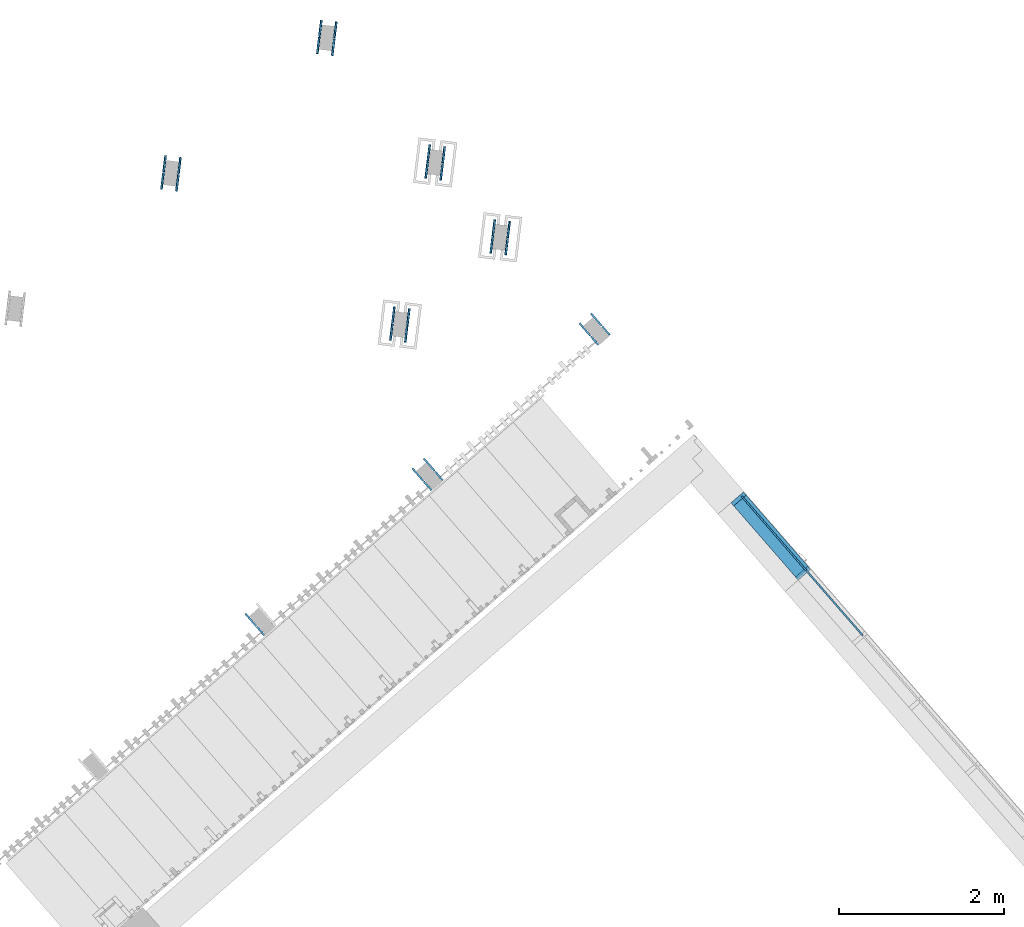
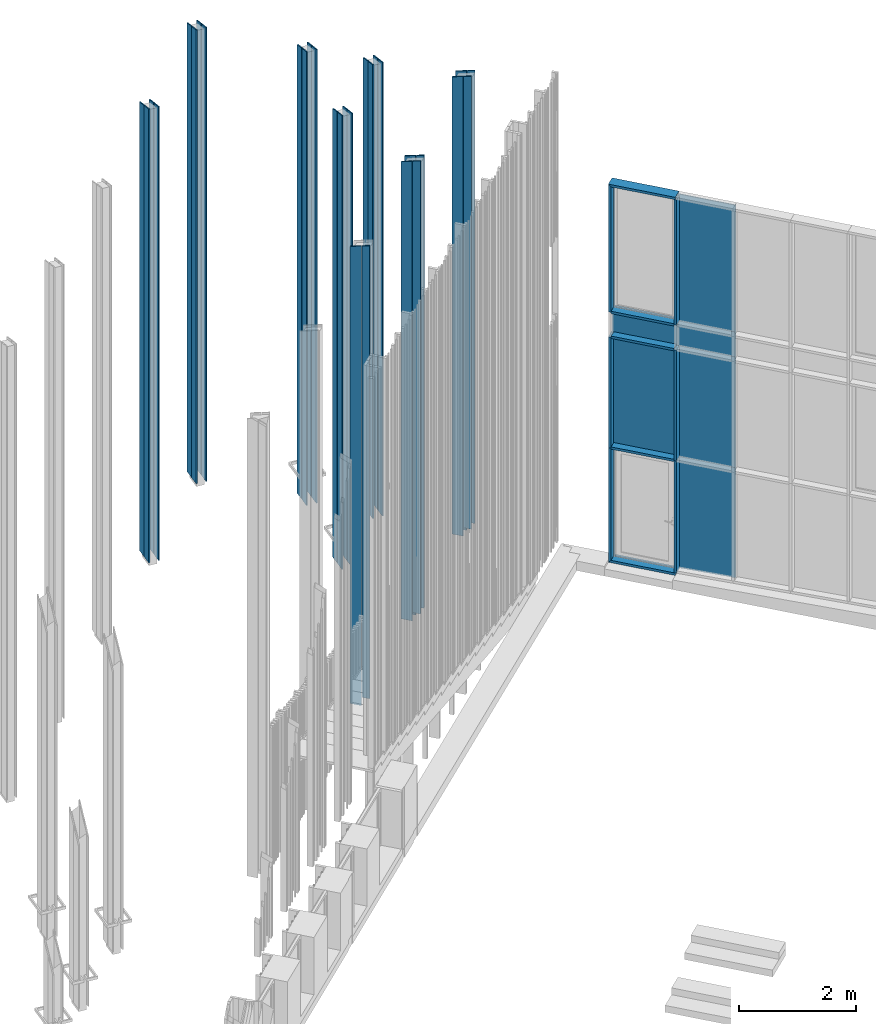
# One storey, part 57 of 390: 47 discrete accessories, 1 element without a shape of its own.
"""IFC2X3 building model written with IfcOpenShell, lengths in millimetres."""

from ifc_helpers import new_model, entity, si_unit, converted_unit, derived_unit, money_unit, direction, frame, origin_with_axes, place, context, subcontext, project, spatial, polyline, outline, extrude, clip, halfspace, faceted_brep, source, transform, mapped, material, material_list, type_object, element, aggregate, save


model = new_model("IFC2X3")

# Units and contexts
model_context = context("Model", 3, precision=1e-05, world=origin_with_axes(), true_north=direction((0.0, 1.0)))
body_context = subcontext(model_context, "Body", "Model", "MODEL_VIEW")
ifc_project = project(units=[si_unit("LENGTHUNIT", "METRE", prefix="MILLI"), si_unit("AREAUNIT", "SQUARE_METRE"), si_unit("VOLUMEUNIT", "CUBIC_METRE"), converted_unit("PLANEANGLEUNIT", "DEGREE", entity("IfcPlaneAngleMeasure", 0.0174532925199), si_unit("PLANEANGLEUNIT", "RADIAN"), dimensions=[0, 0, 0, 0, 0, 0, 0]), si_unit("SOLIDANGLEUNIT", "STERADIAN"), money_unit("EUR"), converted_unit("TIMEUNIT", "Year", entity("IfcTimeMeasure", 31556926.0), si_unit("TIMEUNIT", "SECOND"), dimensions=[0, 0, 1, 0, 0, 0, 0]), si_unit("MASSUNIT", "GRAM", prefix="KILO"), si_unit("THERMODYNAMICTEMPERATUREUNIT", "DEGREE_CELSIUS"), si_unit("LUMINOUSINTENSITYUNIT", "LUMEN"), si_unit("ENERGYUNIT", "JOULE", prefix="MEGA"), derived_unit("THERMALCONDUCTANCEUNIT", [(si_unit("POWERUNIT", "WATT"), 1), (si_unit("LENGTHUNIT", "METRE"), -1), (si_unit("THERMODYNAMICTEMPERATUREUNIT", "KELVIN"), -1)]), derived_unit("SPECIFICHEATCAPACITYUNIT", [(si_unit("ENERGYUNIT", "JOULE"), 1), (si_unit("MASSUNIT", "GRAM", prefix="KILO"), -1), (si_unit("THERMODYNAMICTEMPERATUREUNIT", "KELVIN"), -1)]), derived_unit("MASSDENSITYUNIT", [(si_unit("MASSUNIT", "GRAM", prefix="KILO"), 1), (si_unit("VOLUMEUNIT", "CUBIC_METRE"), -1)])], contexts=[model_context])

# Site, building, storey
site_placement = place(None, origin_with_axes())
site = spatial("IfcSite", under=ifc_project, at=site_placement, Name="Site", CompositionType="ELEMENT")
building_placement = place(site_placement, origin_with_axes())
building = spatial("IfcBuilding", under=site, at=building_placement, Name="Building", CompositionType="ELEMENT")
storey_placement = place(building_placement, origin_with_axes())
storey = spatial("IfcBuildingStorey", under=building, at=storey_placement, Name="1 korrus", CompositionType="ELEMENT", Elevation=0.0)

# Discrete accessories
ifc_material_1 = material(Name="GENEERILINE - VÄLINE VOODER")
discrete_accessory_type_1 = type_object("IfcDiscreteAccessoryType", Name="GENEERILINE - VÄLINE VOODER")
shared_shape_1 = source(origin_with_axes(), body_context, "Body", "Brep", [
    faceted_brep([(162190.360855, 119453.798876, 100.0), (162190.360855, 119453.798876, 9600.0), (162168.524839, 119456.480002, 9600.0), (162168.524839, 119456.480002, 100.0), (162214.734723, 119652.308107, 100.0), (162214.734723, 119652.308107, 9546.41016151), (162192.898708, 119654.989232, 9546.41016151), (162192.898708, 119654.989232, 100.0)], [[[0, 1, 2, 3]], [[1, 0, 4, 5]], [[2, 1, 5, 6]], [[3, 2, 6, 7]], [[0, 3, 7, 4]], [[7, 6, 5, 4]]]),
])
for number, where, z_axis, x_axis in (
    (1, (0.0, 0.0, 0.0), (0.0, 0.0, 1.0), (1.0, 0.0, 0.0)),
    (2, (2099.38889286, -2415.07065664, 0.0), (0.0, 0.0, 1.0), (1.0, 0.0, 0.0)),
    (3, (1312.11805804, -1509.4191604, 0.0), (0.0, 0.0, 1.0), (1.0, 0.0, 0.0)),
    (4, (884.306468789, -3471.32569341, 0.0), (0.0, 0.0, 1.0), (1.0, 0.0, 0.0)),
    (5, (-1886.77395039, -1640.14757267, 0.0), (0.0, 0.0, 1.0), (1.0, 0.0, 0.0)),
):
    element("IfcDiscreteAccessory", number, at=place(storey_placement, frame(where, z_axis=z_axis, x_axis=x_axis)), inside=storey, type_object=discrete_accessory_type_1, material=ifc_material_1, Name="Päikesevarjestuspost", context=body_context, shape_type="MappedRepresentation", body=[
        mapped(shared_shape_1, transform((0.0, 0.0, 0.0))),
    ])
shared_shape_2 = source(origin_with_axes(), body_context, "Body", "Brep", [
    faceted_brep([(162194.117401, 119664.914694, 100.0), (162215.953417, 119662.233568, 100.0), (162215.953417, 119662.233568, 9543.73066959), (162194.117401, 119664.914694, 9543.73066959), (162218.49127, 119863.423924, 100.0), (162240.327285, 119860.742798, 100.0), (162240.327285, 119860.742798, 9490.1408311), (162218.49127, 119863.423924, 9490.1408311)], [[[0, 1, 2, 3]], [[1, 0, 4, 5]], [[2, 1, 5, 6]], [[3, 2, 6, 7]], [[0, 3, 7, 4]], [[4, 7, 6, 5]]]),
])
for number, where, z_axis, x_axis in (
    (6, (0.0, 0.0, 0.0), (0.0, 0.0, 1.0), (1.0, 0.0, 0.0)),
    (7, (2099.38889286, -2415.07065664, 0.0), (0.0, 0.0, 1.0), (1.0, 0.0, 0.0)),
    (8, (1312.11805804, -1509.4191604, 0.0), (0.0, 0.0, 1.0), (1.0, 0.0, 0.0)),
    (9, (884.306468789, -3471.32569341, 0.0), (0.0, 0.0, 1.0), (1.0, 0.0, 0.0)),
    (10, (-1886.77395039, -1640.14757267, 0.0), (0.0, 0.0, 1.0), (1.0, 0.0, 0.0)),
):
    element("IfcDiscreteAccessory", number, at=place(storey_placement, frame(where, z_axis=z_axis, x_axis=x_axis)), inside=storey, type_object=discrete_accessory_type_1, material=ifc_material_1, Name="Päikesevarjestuspost", context=body_context, shape_type="MappedRepresentation", body=[
        mapped(shared_shape_2, transform((0.0, 0.0, 0.0))),
    ])
shared_shape_3 = source(origin_with_axes(), body_context, "Body", "Brep", [
    faceted_brep([(-162194.117401, 119664.914694, 100.0), (-162194.117401, 119664.914694, 9543.73066959), (-162215.953417, 119662.233568, 9543.73066959), (-162215.953417, 119662.233568, 100.0), (-162218.49127, 119863.423924, 100.0), (-162218.49127, 119863.423924, 9490.1408311), (-162240.327285, 119860.742798, 9490.1408311), (-162240.327285, 119860.742798, 100.0)], [[[0, 1, 2, 3]], [[0, 4, 5, 1]], [[1, 5, 6, 2]], [[2, 6, 7, 3]], [[3, 7, 4, 0]], [[4, 7, 6, 5]]]),
])
for number, where, z_axis, x_axis in (
    (11, (292922.681677, -38123.6809369, 0.0), (0.0, 0.0, 1.0), (0.970295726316, -0.241921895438, 0.0)),
    (12, (290823.292785, -35708.6102802, 0.0), (0.0, 0.0, 1.0), (0.970295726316, -0.241921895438, 0.0)),
    (13, (292135.410843, -37218.0294406, 0.0), (0.0, 0.0, 1.0), (0.970295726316, -0.241921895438, 0.0)),
    (14, (291707.599253, -39179.9359737, 0.0), (0.0, 0.0, 1.0), (0.970295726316, -0.241921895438, 0.0)),
    (15, (288936.518834, -37348.7578529, 0.0), (0.0, 0.0, 1.0), (0.970295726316, -0.241921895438, 0.0)),
):
    element("IfcDiscreteAccessory", number, at=place(storey_placement, frame(where, z_axis=z_axis, x_axis=x_axis)), inside=storey, type_object=discrete_accessory_type_1, material=ifc_material_1, Name="Päikesevarjestuspost", context=body_context, shape_type="MappedRepresentation", body=[
        mapped(shared_shape_3, transform((0.0, 0.0, 0.0))),
    ])
shared_shape_4 = source(origin_with_axes(), body_context, "Body", "Brep", [
    faceted_brep([(-162190.360855, 119453.798876, 100.0), (-162168.524839, 119456.480002, 100.0), (-162168.524839, 119456.480002, 9600.0), (-162190.360855, 119453.798876, 9600.0), (-162214.734723, 119652.308107, 100.0), (-162192.898708, 119654.989232, 100.0), (-162192.898708, 119654.989232, 9546.41016151), (-162214.734723, 119652.308107, 9546.41016151)], [[[0, 1, 2, 3]], [[0, 4, 5, 1]], [[1, 5, 6, 2]], [[2, 6, 7, 3]], [[3, 7, 4, 0]], [[5, 4, 7, 6]]]),
])
for number, where, z_axis, x_axis in (
    (16, (292922.681677, -38123.6809369, 0.0), (0.0, 0.0, 1.0), (0.970295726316, -0.241921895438, 0.0)),
    (17, (290823.292785, -35708.6102802, 0.0), (0.0, 0.0, 1.0), (0.970295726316, -0.241921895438, 0.0)),
    (18, (292135.410843, -37218.0294406, 0.0), (0.0, 0.0, 1.0), (0.970295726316, -0.241921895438, 0.0)),
    (19, (291707.599253, -39179.9359737, 0.0), (0.0, 0.0, 1.0), (0.970295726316, -0.241921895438, 0.0)),
    (20, (288936.518834, -37348.7578529, 0.0), (0.0, 0.0, 1.0), (0.970295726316, -0.241921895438, 0.0)),
):
    element("IfcDiscreteAccessory", number, at=place(storey_placement, frame(where, z_axis=z_axis, x_axis=x_axis)), inside=storey, type_object=discrete_accessory_type_1, material=ifc_material_1, Name="Päikesevarjestuspost", context=body_context, shape_type="MappedRepresentation", body=[
        mapped(shared_shape_4, transform((0.0, 0.0, 0.0))),
    ])
shared_shape_5 = source(origin_with_axes(), body_context, "Body", "Brep", [
    faceted_brep([(-162214.734723, 119652.308107, 100.0), (-162197.673015, 119513.351645, 100.0), (-162197.673015, 119513.351645, 9583.92304846), (-162214.734723, 119652.308107, 9546.41016151), (-162192.898708, 119654.989232, 100.0), (-162175.837, 119516.032771, 100.0), (-162175.837, 119516.032771, 9583.92304846), (-162192.898708, 119654.989232, 9546.41016151)], [[[0, 1, 2, 3]], [[1, 0, 4, 5]], [[6, 2, 1, 5]], [[3, 2, 6, 7]], [[0, 3, 7, 4]], [[5, 4, 7, 6]]]),
])
for number, where, z_axis, x_axis in (
    (21, (367011.81722, 107658.857621, 0.0), (0.0, 0.0, 1.0), (0.829037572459, 0.559192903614, 0.0)),
    (22, (364989.195546, 105900.619424, 0.0), (0.0, 0.0, 1.0), (0.829037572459, 0.559192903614, 0.0)),
):
    element("IfcDiscreteAccessory", number, at=place(storey_placement, frame(where, z_axis=z_axis, x_axis=x_axis)), inside=storey, type_object=discrete_accessory_type_1, material=ifc_material_1, Name="Päikesevarjestuspost", context=body_context, shape_type="MappedRepresentation", body=[
        mapped(shared_shape_5, transform((0.0, 0.0, 0.0))),
    ])
shared_shape_6 = source(origin_with_axes(), body_context, "Body", "Brep", [
    faceted_brep([(162175.837, 119516.032771, 9583.92304846), (162175.837, 119516.032771, 100.0), (162197.673015, 119513.351645, 100.0), (162197.673015, 119513.351645, 9583.92304846), (162192.898708, 119654.989232, 100.0), (162192.898708, 119654.989232, 9546.41016151), (162214.734723, 119652.308107, 100.0), (162214.734723, 119652.308107, 9546.41016151)], [[[0, 1, 2, 3]], [[4, 1, 0, 5]], [[1, 4, 6, 2]], [[2, 6, 7, 3]], [[5, 0, 3, 7]], [[4, 5, 7, 6]]]),
])
for number, where, z_axis, x_axis in (
    (23, (145876.382023, -84571.2434919, 0.0), (0.0, 0.0, 1.0), (0.669130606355, 0.743144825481, 0.0)),
    (24, (143853.760348, -86329.4816898, 0.0), (0.0, 0.0, 1.0), (0.669130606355, 0.743144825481, 0.0)),
    (25, (141831.138673, -88087.7198877, 0.0), (0.0, 0.0, 1.0), (0.669130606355, 0.743144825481, 0.0)),
):
    element("IfcDiscreteAccessory", number, at=place(storey_placement, frame(where, z_axis=z_axis, x_axis=x_axis)), inside=storey, type_object=discrete_accessory_type_1, material=ifc_material_1, Name="Päikesevarjestuspost", context=body_context, shape_type="MappedRepresentation", body=[
        mapped(shared_shape_6, transform((0.0, 0.0, 0.0))),
    ])
shared_shape_7 = source(origin_with_axes(), body_context, "Body", "Brep", [
    faceted_brep([(162194.117401, 119664.914694, -78.0534808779), (162215.953417, 119662.233568, -78.0534808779), (162215.953417, 119662.233568, 9543.73066959), (162194.117401, 119664.914694, 9543.73066959), (162218.49127, 119863.423924, -78.0534808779), (162240.327285, 119860.742798, -78.0534808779), (162240.327285, 119860.742798, 9490.1408311), (162218.49127, 119863.423924, 9490.1408311)], [[[0, 1, 2, 3]], [[1, 0, 4, 5]], [[2, 1, 5, 6]], [[3, 2, 6, 7]], [[0, 3, 7, 4]], [[4, 7, 6, 5]]]),
])
for number, where, z_axis, x_axis in (
    (26, (145876.382023, -84571.2434919, 0.0), (0.0, 0.0, 1.0), (0.669130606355, 0.743144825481, 0.0)),
    (27, (143853.760348, -86329.4816898, 0.0), (0.0, 0.0, 1.0), (0.669130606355, 0.743144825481, 0.0)),
    (28, (141831.138673, -88087.7198877, 0.0), (0.0, 0.0, 1.0), (0.669130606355, 0.743144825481, 0.0)),
):
    element("IfcDiscreteAccessory", number, at=place(storey_placement, frame(where, z_axis=z_axis, x_axis=x_axis)), inside=storey, type_object=discrete_accessory_type_1, material=ifc_material_1, Name="Päikesevarjestuspost", context=body_context, shape_type="MappedRepresentation", body=[
        mapped(shared_shape_7, transform((0.0, 0.0, 0.0))),
    ])
shared_shape_8 = source(origin_with_axes(), body_context, "Body", "Brep", [
    faceted_brep([(-162240.327285, 119860.742798, 9490.1408311), (-162240.327285, 119860.742798, -78.0534808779), (-162215.953417, 119662.233568, -78.0534808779), (-162215.953417, 119662.233568, 9543.73066959), (-162218.49127, 119863.423924, -78.0534808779), (-162218.49127, 119863.423924, 9490.1408311), (-162194.117401, 119664.914694, -78.0534808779), (-162194.117401, 119664.914694, 9543.73066959)], [[[0, 1, 2, 3]], [[4, 1, 0, 5]], [[1, 4, 6, 2]], [[2, 6, 7, 3]], [[5, 0, 3, 7]], [[6, 4, 5, 7]]]),
])
for number, where, z_axis, x_axis in (
    (29, (367011.81722, 107658.857621, 0.0), (0.0, 0.0, 1.0), (0.829037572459, 0.559192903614, 0.0)),
    (30, (364989.195546, 105900.619424, 0.0), (0.0, 0.0, 1.0), (0.829037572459, 0.559192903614, 0.0)),
):
    element("IfcDiscreteAccessory", number, at=place(storey_placement, frame(where, z_axis=z_axis, x_axis=x_axis)), inside=storey, type_object=discrete_accessory_type_1, material=ifc_material_1, Name="Päikesevarjestuspost", context=body_context, shape_type="MappedRepresentation", body=[
        mapped(shared_shape_8, transform((0.0, 0.0, 0.0))),
    ])

# Curtain wall, discrete accessories
curtain_wall_type = type_object("IfcCurtainWallType", Name="KLF-17", PredefinedType="NOTDEFINED")
curtain_wall_placement = place(storey_placement, frame((175630.823927, 104534.758561, -0.000216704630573), z_axis=(0.0, 0.0, 1.0), x_axis=(1.0, 0.0, 0.0)))
curtain_wall = element("IfcCurtainWall", 31, at=curtain_wall_placement, inside=storey, type_object=curtain_wall_type, Name="Klaasfassaad")
ifc_material_2 = material(Name="Klaas")
discrete_accessory_type_2 = type_object("IfcDiscreteAccessoryType", Name="1045 x 2655 x 20")
discrete_accessory_1_placement = place(curtain_wall_placement, frame((-7188.76681015, 8269.7302253, 6577.50341211), z_axis=(0.0, 0.0, 1.0), x_axis=(-0.65605902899, 0.754709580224, 0.0)))
discrete_accessory_1 = element("IfcDiscreteAccessory", 32, at=discrete_accessory_1_placement, type_object=discrete_accessory_type_2, material=ifc_material_2, Name="KLF-17 klaaspakett", context=body_context, shape_type="SweptSolid", body=[
    extrude(outline(polyline([(-522.499998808, -1317.50318898), (522.499988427, -1317.50318898), (522.499988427, 1337.50319541), (-522.499998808, 1337.50319541), (-522.499998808, -1317.50318898)])), frame((0.0, -9.99999999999, 0.0), z_axis=(0.0, 1.0, 0.0), x_axis=(1.0, 0.0, 0.0)), (0.0, 0.0, 1.0), 20.0),
])
discrete_accessory_type_3 = type_object("IfcDiscreteAccessoryType", Name="1045 x 2380 x 20")
discrete_accessory_2_placement = place(curtain_wall_placement, frame((-7297.56324736, 8394.88620948, 821.023231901), z_axis=(0.0, 0.0, 1.0), x_axis=(-0.65605902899, 0.754709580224, 0.0)))
discrete_accessory_2 = element("IfcDiscreteAccessory", 33, at=discrete_accessory_2_placement, type_object=discrete_accessory_type_3, material=ifc_material_2, Name="KLF-17 klaaspakett", context=body_context, shape_type="SweptSolid", body=[
    extrude(outline(polyline([(-688.333297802, -1578.97699635), (356.666694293, -1578.97699635), (356.666694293, 801.023229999), (351.666622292, 801.023229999), (351.666622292, 750.317553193), (-688.333297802, 726.045824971), (-688.333297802, -1578.97699635)])), frame((0.0, -9.99999999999, 0.0), z_axis=(0.0, 1.0, 0.0), x_axis=(1.0, 0.0, 0.0)), (0.0, 0.0, 1.0), 20.0),
])
discrete_accessory_type_4 = type_object("IfcDiscreteAccessoryType", Name="1045 x 2320 x 20")
discrete_accessory_3_placement = place(curtain_wall_placement, frame((-7188.76681015, 8269.7302253, 3560.0002167), z_axis=(0.0, 0.0, 1.0), x_axis=(-0.65605902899, 0.754709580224, 0.0)))
discrete_accessory_3 = element("IfcDiscreteAccessory", 34, at=discrete_accessory_3_placement, type_object=discrete_accessory_type_4, material=ifc_material_2, Name="KLF-17 klaaspakett", context=body_context, shape_type="SweptSolid", body=[
    extrude(outline(polyline([(-522.499991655, -1160.0), (522.500001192, -1160.0), (522.500001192, 1160.0), (-522.499991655, 1160.0), (-522.499991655, -1160.0)])), frame((0.0, -9.99999999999, 0.0), z_axis=(0.0, 1.0, 0.0), x_axis=(1.0, 0.0, 0.0)), (0.0, 0.0, 1.0), 20.0),
])
discrete_accessory_type_5 = type_object("IfcDiscreteAccessoryType", Name="1195 x 2320 x 20")
discrete_accessory_4_placement = place(curtain_wall_placement, frame((-7930.11351291, 9122.55205095, 3560.0002167), z_axis=(0.0, 0.0, 1.0), x_axis=(-0.65605902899, 0.754709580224, 0.0)))
discrete_accessory_4 = element("IfcDiscreteAccessory", 35, at=discrete_accessory_4_placement, type_object=discrete_accessory_type_5, material=ifc_material_2, Name="KLF-17 klaaspakett", context=body_context, shape_type="SweptSolid", body=[
    extrude(outline(polyline([(-607.499986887, -1160.0), (587.500004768, -1160.0), (587.500004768, 1160.0), (-607.499986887, 1160.0), (-607.499986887, -1160.0)])), frame((0.0, -10.0, 0.0), z_axis=(0.0, 1.0, 0.0), x_axis=(1.0, 0.0, 0.0)), (0.0, 0.0, 1.0), 20.0),
])
discrete_accessory_type_6 = type_object("IfcDiscreteAccessoryType", Name="1045 x 520 x 20")
discrete_accessory_5_placement = place(curtain_wall_placement, frame((-7188.76681015, 8269.7302253, 4980.0002167), z_axis=(0.0, 0.0, 1.0), x_axis=(-0.65605902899, 0.754709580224, 0.0)))
discrete_accessory_5 = element("IfcDiscreteAccessory", 36, at=discrete_accessory_5_placement, type_object=discrete_accessory_type_6, material=ifc_material_2, Name="KLF-17 klaaspakett", context=body_context, shape_type="SweptSolid", body=[
    extrude(outline(polyline([(-522.5, -259.99999553), (522.49999553, -259.99999553), (522.49999553, 260.0), (-522.5, 260.0), (-522.5, -259.99999553)])), frame((0.0, -10.0, 0.0), z_axis=(0.0, 1.0, 0.0), x_axis=(1.0, 0.0, 0.0)), (0.0, 0.0, 1.0), 20.0),
])
discrete_accessory_type_7 = type_object("IfcDiscreteAccessoryType", Name="1195 x 520 x 20")
discrete_accessory_6_placement = place(curtain_wall_placement, frame((-7930.11351291, 9122.55205095, 4980.0002167), z_axis=(0.0, 0.0, 1.0), x_axis=(-0.65605902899, 0.754709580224, 0.0)))
discrete_accessory_6 = element("IfcDiscreteAccessory", 37, at=discrete_accessory_6_placement, type_object=discrete_accessory_type_7, material=ifc_material_2, Name="KLF-17 klaaspakett", context=body_context, shape_type="SweptSolid", body=[
    extrude(outline(polyline([(-607.500001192, -260.000005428), (587.499992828, -260.000005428), (587.499992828, 260.0), (-607.500001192, 260.0), (-607.500001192, -260.000005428)])), frame((0.0, -10.0, 0.0), z_axis=(0.0, 1.0, 0.0), x_axis=(1.0, 0.0, 0.0)), (0.0, 0.0, 1.0), 20.0),
])
discrete_accessory_type_8 = type_object("IfcDiscreteAccessoryType", Name="50 x 200")
discrete_accessory_7_placement = place(curtain_wall_placement, frame((-8328.66937302, 9581.03812094, 5240.0002167), z_axis=(0.0, 0.0, 1.0), x_axis=(-0.65605902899, 0.754709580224, 0.0)))
discrete_accessory_7 = element("IfcDiscreteAccessory", 38, at=discrete_accessory_7_placement, type_object=discrete_accessory_type_8, Name="KLF-17 profiil", context=body_context, shape_type="Clipping", body=[
    clip(extrude(outline(polyline([(8.8543799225, -25.4283297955), (23.948571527, -12.3071492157), (7.54709580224, 6.56059028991), (-7.54709580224, -6.56059028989), (8.8543799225, -25.4283297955)])), frame((0.0, 0.0, 0.0), z_axis=(0.0, 0.0, 1.0), x_axis=(-0.65605902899, -0.754709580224, 0.0)), (0.0, 0.0, 1.0), 2675.00639082), halfspace(frame((-1337.50319541, 4.75176589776e-10, 1337.50319541), z_axis=(0.707106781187, 0.0, -0.707106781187), x_axis=(0.0, 1.0, 0.0)), True)),
    clip(extrude(outline(polyline([(-80.4034855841, -136.14433336), (25.2558556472, -44.2960693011), (-7.54709580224, -6.56059028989), (-113.206437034, -98.4088543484), (-80.4034855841, -136.14433336)])), frame((0.0, 0.0, 0.0), z_axis=(0.0, 0.0, 1.0), x_axis=(-0.65605902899, -0.754709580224, 0.0)), (0.0, 0.0, 1.0), 2675.00639082), halfspace(frame((-1337.50319541, 0.0, 1337.50319541), z_axis=(0.707106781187, 0.0, -0.707106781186), x_axis=(0.0, 1.0, 0.0)), True)),
    clip(extrude(outline(polyline([(37.7354790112, 32.8029514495), (7.54709580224, 6.56059028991), (40.3500472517, -31.1748887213), (70.5384304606, -4.93252756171), (37.7354790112, 32.8029514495)])), frame((0.0, 0.0, 0.0), z_axis=(0.0, 0.0, 1.0), x_axis=(-0.65605902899, -0.754709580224, 0.0)), (0.0, 0.0, 1.0), 2675.00639082), halfspace(frame((-1337.50319541, 0.0, 1337.50319541), z_axis=(0.707106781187, 0.0, -0.707106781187), x_axis=(0.0, 1.0, 0.0)), True)),
])
ifc_material_3 = material(Name="Aluminium MUST")
ifc_material_list = material_list([ifc_material_3, ifc_material_3])
discrete_accessory_8_placement = place(curtain_wall_placement, frame((-7531.5576528, 8664.06598097, 5240.0002167), z_axis=(0.0, 0.0, 1.0), x_axis=(-0.65605902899, 0.754709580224, 0.0)))
discrete_accessory_8 = element("IfcDiscreteAccessory", 39, at=discrete_accessory_8_placement, type_object=discrete_accessory_type_8, material=ifc_material_list, Name="KLF-17 profiil", context=body_context, shape_type="SweptSolid", body=[
    extrude(outline(polyline([(-129.607912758, -79.5411148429), (-96.8049613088, -117.276593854), (8.8543799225, -25.4283297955), (-23.948571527, 12.3071492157), (-129.607912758, -79.5411148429)])), frame((0.0, 0.0, 0.0), z_axis=(0.0, 0.0, 1.0), x_axis=(-0.65605902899, -0.754709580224, 0.0)), (0.0, 0.0, 1.0), 2625.00639082),
    extrude(outline(polyline([(54.136954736, 13.9352119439), (21.3340032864, 51.6706909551), (-8.8543799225, 25.4283297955), (23.948571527, -12.3071492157), (54.136954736, 13.9352119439)])), frame((0.0, 0.0, 0.0), z_axis=(0.0, 0.0, 1.0), x_axis=(-0.65605902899, -0.754709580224, 0.0)), (0.0, 0.0, 1.0), 2625.00639082),
])
discrete_accessory_9_placement = place(curtain_wall_placement, frame((-8328.66937302, 9581.03812094, 7915.00660752), z_axis=(0.65605902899, -0.754709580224, 0.0), x_axis=(0.0, 0.0, 1.0)))
discrete_accessory_9 = element("IfcDiscreteAccessory", 40, at=discrete_accessory_9_placement, type_object=discrete_accessory_type_8, Name="KLF-17 profiil", context=body_context, shape_type="Clipping", body=[
    clip(extrude(outline(polyline([(9.99999999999, 25.0), (-9.99999999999, 25.0), (-9.99999999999, 0.0), (9.99999999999, 0.0), (9.99999999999, 25.0)])), frame((0.0, 0.0, 0.0), z_axis=(0.0, 0.0, 1.0), x_axis=(0.0, 1.0, 0.0)), (0.0, 0.0, 1.0), 1215.0), halfspace(frame((0.0, 0.0, 0.0), z_axis=(0.707106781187, 0.0, 0.707106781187), x_axis=(0.0, -1.0, 0.0)), True)),
    clip(extrude(outline(polyline([(150.0, 50.0), (9.99999999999, 50.0), (9.99999999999, 0.0), (150.0, 0.0), (150.0, 50.0)])), frame((0.0, 0.0, 0.0), z_axis=(0.0, 0.0, 1.0), x_axis=(0.0, 1.0, 0.0)), (0.0, 0.0, 1.0), 1215.0), halfspace(frame((0.0, 0.0, 0.0), z_axis=(0.707106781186, 0.0, 0.707106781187), x_axis=(0.0, -1.0, 0.0)), True)),
    clip(extrude(outline(polyline([(-50.0, 0.0), (-9.99999999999, 0.0), (-9.99999999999, 50.0), (-50.0, 50.0), (-50.0, 0.0)])), frame((0.0, 0.0, 0.0), z_axis=(0.0, 0.0, 1.0), x_axis=(0.0, 1.0, 0.0)), (0.0, 0.0, 1.0), 1215.0), halfspace(frame((0.0, 0.0, 0.0), z_axis=(0.707106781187, 0.0, 0.707106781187), x_axis=(0.0, -1.0, 0.0)), True)),
])
discrete_accessory_10_placement = place(curtain_wall_placement, frame((-8328.66937302, 9581.03812094, 5240.0002167), z_axis=(0.65605902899, -0.754709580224, 0.0), x_axis=(0.0, 0.0, 1.0)))
discrete_accessory_10 = element("IfcDiscreteAccessory", 41, at=discrete_accessory_10_placement, type_object=discrete_accessory_type_8, material=ifc_material_list, Name="KLF-17 profiil", context=body_context, shape_type="SweptSolid", body=[
    extrude(outline(polyline([(150.0, -25.0), (150.0, 25.0), (10.0, 25.0), (10.0, -25.0), (150.0, -25.0)])), frame((0.0, 0.0, 50.0), z_axis=(0.0, 0.0, 1.0), x_axis=(0.0, 1.0, 0.0)), (0.0, 0.0, 1.0), 1140.0),
    extrude(outline(polyline([(-50.0, 25.0), (-50.0, -25.0), (-9.99999999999, -25.0), (-9.99999999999, 25.0), (-50.0, 25.0)])), frame((0.0, 0.0, 50.0), z_axis=(0.0, 0.0, 1.0), x_axis=(0.0, 1.0, 0.0)), (0.0, 0.0, 1.0), 1140.0),
])
discrete_accessory_11_placement = place(curtain_wall_placement, frame((-8328.66937302, 9581.03812094, 0.0), z_axis=(0.0, 0.0, 1.0), x_axis=(-0.65605902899, 0.754709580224, 0.0)))
discrete_accessory_11 = element("IfcDiscreteAccessory", 42, at=discrete_accessory_11_placement, type_object=discrete_accessory_type_8, Name="KLF-17 profiil", context=body_context, shape_type="Clipping", body=[
    clip(extrude(outline(polyline([(8.8543799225, -25.4283297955), (23.948571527, -12.3071492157), (7.54709580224, 6.56059028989), (-7.54709580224, -6.56059028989), (8.8543799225, -25.4283297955)])), frame((0.0, 0.0, 0.0), z_axis=(0.0, 0.0, 1.0), x_axis=(-0.65605902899, -0.754709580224, 0.0)), (0.0, 0.0, 1.0), 2400.0002167), halfspace(frame((0.0, 0.0, 0.0), z_axis=(0.707106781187, 0.0, 0.707106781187), x_axis=(0.0, -1.0, 0.0)), True)),
    clip(extrude(outline(polyline([(-80.4034855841, -136.14433336), (25.2558556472, -44.2960693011), (-7.54709580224, -6.56059028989), (-113.206437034, -98.4088543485), (-80.4034855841, -136.14433336)])), frame((0.0, 0.0, 0.0), z_axis=(0.0, 0.0, 1.0), x_axis=(-0.65605902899, -0.754709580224, 0.0)), (0.0, 0.0, 1.0), 2400.0002167), halfspace(frame((0.0, 0.0, 0.0), z_axis=(0.707106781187, 0.0, 0.707106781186), x_axis=(0.0, -1.0, 0.0)), True)),
    clip(extrude(outline(polyline([(37.7354790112, 32.8029514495), (7.54709580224, 6.56059028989), (40.3500472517, -31.1748887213), (70.5384304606, -4.93252756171), (37.7354790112, 32.8029514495)])), frame((0.0, 0.0, 0.0), z_axis=(0.0, 0.0, 1.0), x_axis=(-0.65605902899, -0.754709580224, 0.0)), (0.0, 0.0, 1.0), 2400.0002167), halfspace(frame((0.0, 0.0, 0.0), z_axis=(0.707106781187, 0.0, 0.707106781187), x_axis=(0.0, -1.0, 0.0)), True)),
])
discrete_accessory_12_placement = place(curtain_wall_placement, frame((-7531.5576528, 8664.06598097, 0.0), z_axis=(0.0, 0.0, 1.0), x_axis=(-0.65605902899, 0.754709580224, 0.0)))
discrete_accessory_12 = element("IfcDiscreteAccessory", 43, at=discrete_accessory_12_placement, type_object=discrete_accessory_type_8, material=ifc_material_list, Name="KLF-17 profiil", context=body_context, shape_type="SweptSolid", body=[
    extrude(outline(polyline([(-129.607912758, -79.5411148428), (-96.8049613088, -117.276593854), (8.85437992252, -25.4283297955), (-23.948571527, 12.3071492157), (-129.607912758, -79.5411148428)])), frame((0.0, 0.0, 50.0), z_axis=(0.0, 0.0, 1.0), x_axis=(-0.65605902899, -0.754709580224, 0.0)), (0.0, 0.0, 1.0), 2350.0002167),
    extrude(outline(polyline([(54.1369547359, 13.9352119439), (21.3340032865, 51.6706909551), (-8.8543799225, 25.4283297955), (23.948571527, -12.3071492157), (54.1369547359, 13.9352119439)])), frame((0.0, 0.0, 50.0), z_axis=(0.0, 0.0, 1.0), x_axis=(-0.65605902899, -0.754709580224, 0.0)), (0.0, 0.0, 1.0), 2350.0002167),
])
discrete_accessory_13_placement = place(curtain_wall_placement, frame((-8328.66937302, 9581.03812094, 2400.0002167), z_axis=(0.0, 0.0, 1.0), x_axis=(-0.65605902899, 0.754709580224, 0.0)))
discrete_accessory_13 = element("IfcDiscreteAccessory", 44, at=discrete_accessory_13_placement, type_object=discrete_accessory_type_8, Name="KLF-17 profiil", context=body_context, shape_type="SweptSolid", body=[
    extrude(outline(polyline([(8.8543799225, -25.4283297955), (23.948571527, -12.3071492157), (7.54709580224, 6.56059028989), (-7.54709580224, -6.56059028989), (8.8543799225, -25.4283297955)])), frame((0.0, 0.0, 0.0), z_axis=(0.0, 0.0, 1.0), x_axis=(-0.65605902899, -0.754709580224, 0.0)), (0.0, 0.0, 1.0), 2320.0),
    extrude(outline(polyline([(-80.403485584, -136.14433336), (25.2558556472, -44.2960693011), (-7.54709580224, -6.56059028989), (-113.206437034, -98.4088543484), (-80.403485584, -136.14433336)])), frame((0.0, 0.0, 0.0), z_axis=(0.0, 0.0, 1.0), x_axis=(-0.65605902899, -0.754709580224, 0.0)), (0.0, 0.0, 1.0), 2320.0),
    extrude(outline(polyline([(37.7354790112, 32.8029514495), (7.54709580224, 6.56059028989), (40.3500472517, -31.1748887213), (70.5384304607, -4.93252756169), (37.7354790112, 32.8029514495)])), frame((0.0, 0.0, 0.0), z_axis=(0.0, 0.0, 1.0), x_axis=(-0.65605902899, -0.754709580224, 0.0)), (0.0, 0.0, 1.0), 2320.0),
])
discrete_accessory_14_placement = place(curtain_wall_placement, frame((-7531.5576528, 8664.06598097, 2400.0002167), z_axis=(0.0, 0.0, 1.0), x_axis=(-0.65605902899, 0.754709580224, 0.0)))
discrete_accessory_14 = element("IfcDiscreteAccessory", 45, at=discrete_accessory_14_placement, type_object=discrete_accessory_type_8, material=ifc_material_list, Name="KLF-17 profiil", context=body_context, shape_type="SweptSolid", body=[
    extrude(outline(polyline([(-129.607912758, -79.5411148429), (-96.8049613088, -117.276593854), (8.8543799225, -25.4283297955), (-23.948571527, 12.3071492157), (-129.607912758, -79.5411148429)])), frame((0.0, 0.0, 0.0), z_axis=(0.0, 0.0, 1.0), x_axis=(-0.65605902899, -0.754709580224, 0.0)), (0.0, 0.0, 1.0), 2320.0),
    extrude(outline(polyline([(54.136954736, 13.9352119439), (21.3340032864, 51.6706909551), (-8.8543799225, 25.4283297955), (23.948571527, -12.3071492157), (54.136954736, 13.9352119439)])), frame((0.0, 0.0, 0.0), z_axis=(0.0, 0.0, 1.0), x_axis=(-0.65605902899, -0.754709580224, 0.0)), (0.0, 0.0, 1.0), 2320.0),
])
discrete_accessory_15_placement = place(curtain_wall_placement, frame((-8328.66937302, 9581.03812094, 4720.0002167), z_axis=(0.65605902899, -0.754709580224, 0.0), x_axis=(0.0, 0.0, 1.0)))
discrete_accessory_15 = element("IfcDiscreteAccessory", 46, at=discrete_accessory_15_placement, type_object=discrete_accessory_type_8, material=ifc_material_list, Name="KLF-17 profiil", context=body_context, shape_type="SweptSolid", body=[
    extrude(outline(polyline([(150.0, -25.0), (150.0, 25.0), (10.0, 25.0), (10.0, -25.0), (150.0, -25.0)])), frame((0.0, 0.0, 50.0), z_axis=(0.0, 0.0, 1.0), x_axis=(0.0, 1.0, 0.0)), (0.0, 0.0, 1.0), 1140.0),
    extrude(outline(polyline([(-50.0, 25.0), (-50.0, -25.0), (-9.99999999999, -25.0), (-9.99999999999, 25.0), (-50.0, 25.0)])), frame((0.0, 0.0, 50.0), z_axis=(0.0, 0.0, 1.0), x_axis=(0.0, 1.0, 0.0)), (0.0, 0.0, 1.0), 1140.0),
])
discrete_accessory_16_placement = place(curtain_wall_placement, frame((-8328.66937302, 9581.03812094, 2400.0002167), z_axis=(0.65605902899, -0.754709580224, 0.0), x_axis=(0.0, 0.0, 1.0)))
discrete_accessory_16 = element("IfcDiscreteAccessory", 47, at=discrete_accessory_16_placement, type_object=discrete_accessory_type_8, material=ifc_material_list, Name="KLF-17 profiil", context=body_context, shape_type="SweptSolid", body=[
    extrude(outline(polyline([(150.0, -25.0), (150.0, 25.0), (10.0, 25.0), (10.0, -25.0), (150.0, -25.0)])), frame((0.0, 0.0, 50.0), z_axis=(0.0, 0.0, 1.0), x_axis=(0.0, 1.0, 0.0)), (0.0, 0.0, 1.0), 1140.0),
    extrude(outline(polyline([(-50.0, 25.0), (-50.0, -25.0), (-9.99999999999, -25.0), (-9.99999999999, 25.0), (-50.0, 25.0)])), frame((0.0, 0.0, 50.0), z_axis=(0.0, 0.0, 1.0), x_axis=(0.0, 1.0, 0.0)), (0.0, 0.0, 1.0), 1140.0),
])
discrete_accessory_17_placement = place(curtain_wall_placement, frame((-8328.66937302, 9581.03812094, 0.0), z_axis=(0.65605902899, -0.754709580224, 0.0), x_axis=(0.0, 0.0, 1.0)))
discrete_accessory_17 = element("IfcDiscreteAccessory", 48, at=discrete_accessory_17_placement, type_object=discrete_accessory_type_8, Name="KLF-17 profiil", context=body_context, shape_type="Clipping", body=[
    clip(extrude(outline(polyline([(9.99999999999, -25.0), (9.99999999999, 0.0), (-9.99999999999, 0.0), (-9.99999999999, -25.0), (9.99999999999, -25.0)])), frame((0.0, 0.0, 0.0), z_axis=(0.0, 0.0, 1.0), x_axis=(0.0, 1.0, 0.0)), (0.0, 0.0, 1.0), 1215.0), halfspace(frame((0.0, 0.0, 0.0), z_axis=(-0.707106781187, 0.0, 0.707106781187), x_axis=(0.0, -1.0, 0.0)), True)),
    clip(extrude(outline(polyline([(150.0, -50.0), (150.0, 0.0), (9.99999999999, 0.0), (9.99999999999, -50.0), (150.0, -50.0)])), frame((0.0, 0.0, 0.0), z_axis=(0.0, 0.0, 1.0), x_axis=(0.0, 1.0, 0.0)), (0.0, 0.0, 1.0), 1215.0), halfspace(frame((0.0, 0.0, 0.0), z_axis=(-0.707106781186, 0.0, 0.707106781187), x_axis=(0.0, -1.0, 0.0)), True)),
    clip(extrude(outline(polyline([(-50.0, 0.0), (-50.0, -50.0), (-9.99999999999, -50.0), (-9.99999999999, 0.0), (-50.0, 0.0)])), frame((0.0, 0.0, 0.0), z_axis=(0.0, 0.0, 1.0), x_axis=(0.0, 1.0, 0.0)), (0.0, 0.0, 1.0), 1215.0), halfspace(frame((0.0, 0.0, 0.0), z_axis=(-0.707106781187, 0.0, 0.707106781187), x_axis=(0.0, -1.0, 0.0)), True)),
])
aggregate(curtain_wall, [discrete_accessory_1, discrete_accessory_2, discrete_accessory_4, discrete_accessory_3, discrete_accessory_5, discrete_accessory_6, discrete_accessory_7, discrete_accessory_8, discrete_accessory_9, discrete_accessory_10, discrete_accessory_11, discrete_accessory_12, discrete_accessory_13, discrete_accessory_14, discrete_accessory_15, discrete_accessory_16, discrete_accessory_17])

save(model, "model.ifc")
